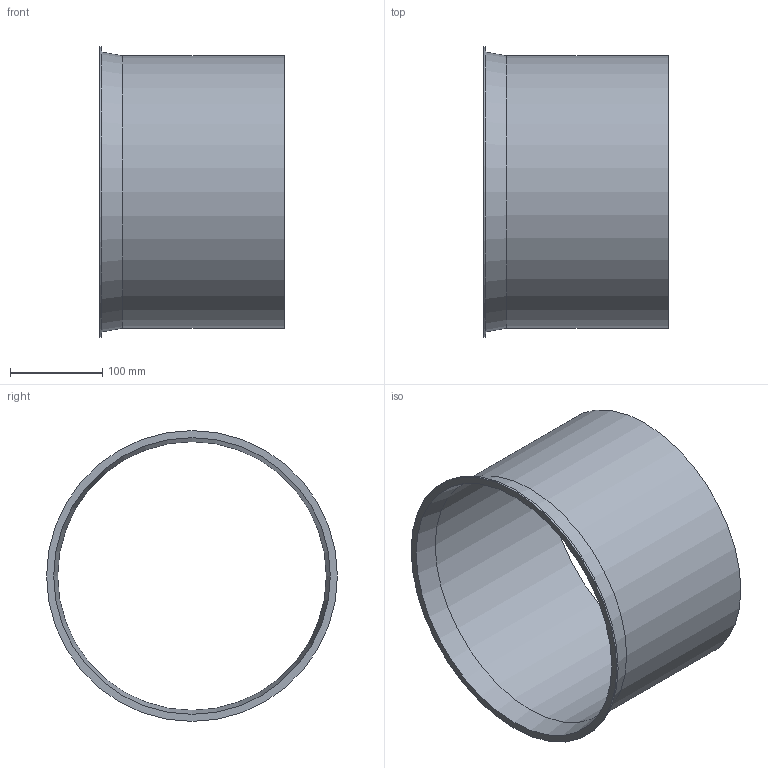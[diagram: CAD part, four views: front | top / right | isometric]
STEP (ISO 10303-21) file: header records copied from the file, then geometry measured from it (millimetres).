
FILE_DESCRIPTION((''),'2;1');
FILE_NAME('U:\Wolfgang\Marcel-3D\fertig\Kapitel 1\3011008.stp','2010-05-31T11:37:52',('TK2'),(''),'Autodesk Inventor 2010','Autodesk Inventor 2010','');
FILE_SCHEMA(('AUTOMOTIVE_DESIGN { 1 0 10303 214 1 1 1 1 }'));
Length unit declared in the file: millimetre
Products named in the file (1): 3011008
Bounding box: 200 x 315 x 315 mm (x, y, z)
Volume: 380889.2 mm3; surface area: 384698.6 mm2
Topology: 1 solids, 1 shells, 8 faces, 14 edges, 9 vertices
Faces by surface type: cylinder 3, plane 3, cone 2
Full cylindrical faces by diameter (mm): 291 x1, 295 x1, 315 x1
Entity records: 194 total; most frequent: DIRECTION 34, CARTESIAN_POINT 25, AXIS2_PLACEMENT_3D 17, ORIENTED_EDGE 16, EDGE_LOOP 16, VERTEX_POINT 8, CIRCLE 8, EDGE_CURVE 8
